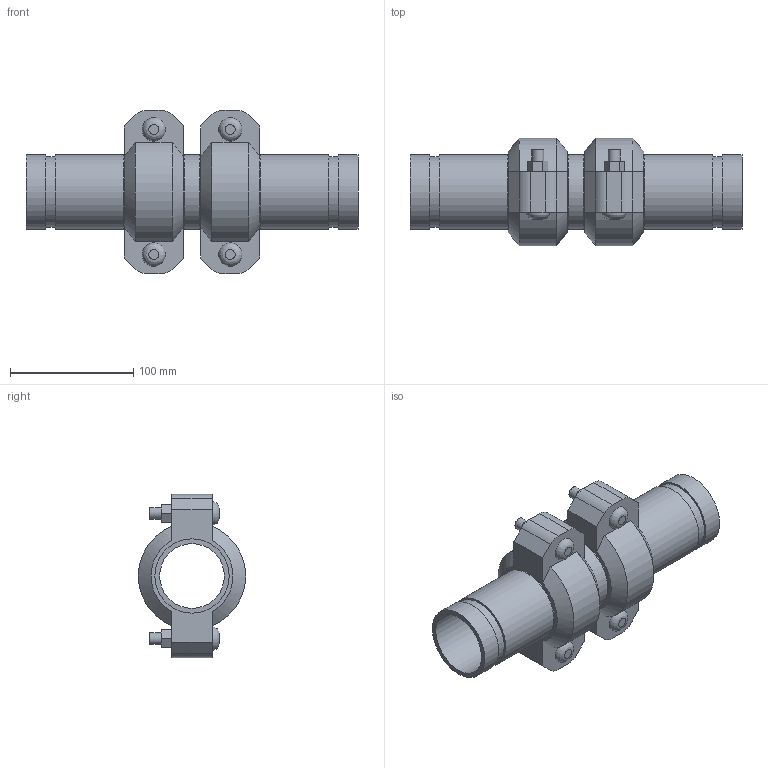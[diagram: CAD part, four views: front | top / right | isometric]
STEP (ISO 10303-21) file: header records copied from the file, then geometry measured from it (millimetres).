
FILE_DESCRIPTION(/* description */ ('VIC SS EXPANSION JOINT 2 COUPLINGS EXPANDED STYLE 155P (OGS) (POTABLE WATER) ','CAx-IF Rec.Pracs.---Representation and Presentation of Product Manufacturing Information (PMI)---4.0---2014-10-13'),/* implementation_level */ '2;1');
FILE_NAME(/* name */ 'C:\Users\kkamble\AppData\Roaming\Autodesk\ApplicationPlugins\Victaulic.Temp\A661\Victaulic_SS_Expansion Joint_Expanded_2 Couplings_Style 155P (OGS)-Potable Water_2 Coup_Expd_2 (50).stp',/* time_stamp */ '2021-07-16T16:48:41+05:00',/* author */ ('kkamble'),/* organization */ ('Victaulic'),/* preprocessor_version */ 'ST-DEVELOPER v17.2',/* originating_system */ 'Autodesk Inventor 2019',/* authorisation */ '');
FILE_SCHEMA (('AP242_MANAGED_MODEL_BASED_3D_ENGINEERING_MIM_LF { 1 0 10303 442 1 1 4 }'));
Length unit declared in the file: inch
Products named in the file (4): 155P-02.0; Nipple-02.0; Nipple-02.0_1; 075-02.0
Assembly tree (5 placements, depth 2):
  155P-02.0
    Nipple-02.0  x2
    Nipple-02.0_1
    075-02.0  x2
Bounding box: 269.49 x 87.12 x 132.59 mm (x, y, z)
Volume: 572452.7 mm3; surface area: 181308.4 mm2
Topology: 5 solids, 9 shells, 150 faces, 356 edges, 252 vertices
Faces by surface type: plane 90, cylinder 48, cone 8, bspline 4
Full cylindrical faces by diameter (mm): 9.525 x8, 11.43 x4, 52.502 x3, 53.975 x2, 57.15 x6, 60.325 x13
Entity records: 2744 total; most frequent: CARTESIAN_POINT 489, DIRECTION 453, ORIENTED_EDGE 386, EDGE_CURVE 193, AXIS2_PLACEMENT_3D 180, VERTEX_POINT 138, EDGE_LOOP 107, LINE 93
